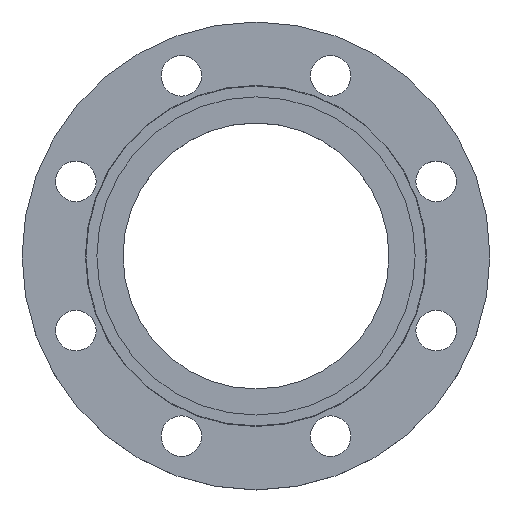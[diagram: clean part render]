
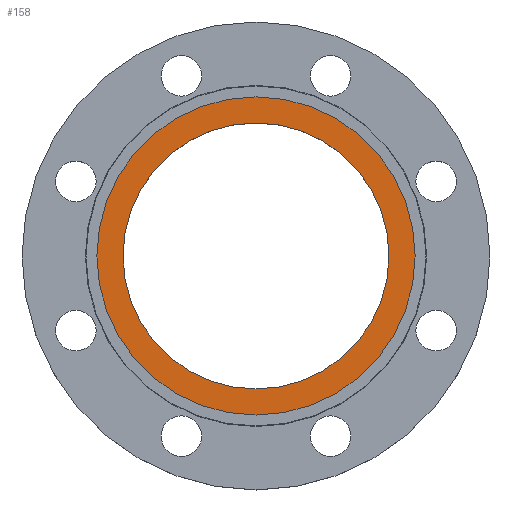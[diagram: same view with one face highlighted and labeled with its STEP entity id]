
A CAD part, top view. The second image highlights one B-rep face of the part: STEP entity #158.
In plain terms, the highlighted planar face has unit normal (0, 0, 1).
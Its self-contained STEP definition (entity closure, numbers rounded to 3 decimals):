
#3 = DIRECTION ( 'NONE',  ( 0., 0., -1. ) ) ;
#29 = FACE_BOUND ( 'NONE', #277, .T. ) ;
#32 = AXIS2_PLACEMENT_3D ( 'NONE', #670, #936, #301 ) ;
#76 = CIRCLE ( 'NONE', #32, 85.25 ) ;
#118 = EDGE_CURVE ( 'NONE', #392, #504, #414, .T. ) ;
#119 = DIRECTION ( 'NONE',  ( -1., 0., 0. ) ) ;
#129 = CIRCLE ( 'NONE', #134, 102. ) ;
#134 = AXIS2_PLACEMENT_3D ( 'NONE', #705, #3, #343 ) ;
#149 = CIRCLE ( 'NONE', #543, 85.25 ) ;
#158 = ADVANCED_FACE ( 'NONE', ( #29, #368 ), #661, .T. ) ;
#163 = CARTESIAN_POINT ( 'NONE',  ( 102., 0., -4.5 ) ) ;
#192 = AXIS2_PLACEMENT_3D ( 'NONE', #928, #287, #599 ) ;
#195 = DIRECTION ( 'NONE',  ( 1., 0., 0. ) ) ;
#197 = AXIS2_PLACEMENT_3D ( 'NONE', #517, #788, #119 ) ;
#277 = EDGE_LOOP ( 'NONE', ( #631, #911 ) ) ;
#287 = DIRECTION ( 'NONE',  ( 0., 0., 1. ) ) ;
#301 = DIRECTION ( 'NONE',  ( 1., 0., 0. ) ) ;
#343 = DIRECTION ( 'NONE',  ( -1., 0., 0. ) ) ;
#368 = FACE_OUTER_BOUND ( 'NONE', #743, .T. ) ;
#378 = ORIENTED_EDGE ( 'NONE', *, *, #880, .F. ) ;
#392 = VERTEX_POINT ( 'NONE', #163 ) ;
#404 = ORIENTED_EDGE ( 'NONE', *, *, #118, .F. ) ;
#414 = CIRCLE ( 'NONE', #197, 102. ) ;
#468 = VERTEX_POINT ( 'NONE', #576 ) ;
#504 = VERTEX_POINT ( 'NONE', #711 ) ;
#517 = CARTESIAN_POINT ( 'NONE',  ( 0., 0., -4.5 ) ) ;
#543 = AXIS2_PLACEMENT_3D ( 'NONE', #591, #852, #195 ) ;
#546 = EDGE_CURVE ( 'NONE', #907, #468, #149, .T. ) ;
#576 = CARTESIAN_POINT ( 'NONE',  ( 85.25, 0., -4.5 ) ) ;
#591 = CARTESIAN_POINT ( 'NONE',  ( 0., 0., -4.5 ) ) ;
#599 = DIRECTION ( 'NONE',  ( 1., 0., 0. ) ) ;
#631 = ORIENTED_EDGE ( 'NONE', *, *, #546, .T. ) ;
#661 = PLANE ( 'NONE',  #192 ) ;
#670 = CARTESIAN_POINT ( 'NONE',  ( 0., 0., -4.5 ) ) ;
#705 = CARTESIAN_POINT ( 'NONE',  ( 0., 0., -4.5 ) ) ;
#706 = EDGE_CURVE ( 'NONE', #468, #907, #76, .T. ) ;
#710 = CARTESIAN_POINT ( 'NONE',  ( -85.25, 0., -4.5 ) ) ;
#711 = CARTESIAN_POINT ( 'NONE',  ( -102., 0., -4.5 ) ) ;
#743 = EDGE_LOOP ( 'NONE', ( #378, #404 ) ) ;
#788 = DIRECTION ( 'NONE',  ( 0., 0., -1. ) ) ;
#852 = DIRECTION ( 'NONE',  ( 0., 0., -1. ) ) ;
#880 = EDGE_CURVE ( 'NONE', #504, #392, #129, .T. ) ;
#907 = VERTEX_POINT ( 'NONE', #710 ) ;
#911 = ORIENTED_EDGE ( 'NONE', *, *, #706, .T. ) ;
#928 = CARTESIAN_POINT ( 'NONE',  ( 102., 0., -4.5 ) ) ;
#936 = DIRECTION ( 'NONE',  ( 0., 0., -1. ) ) ;
